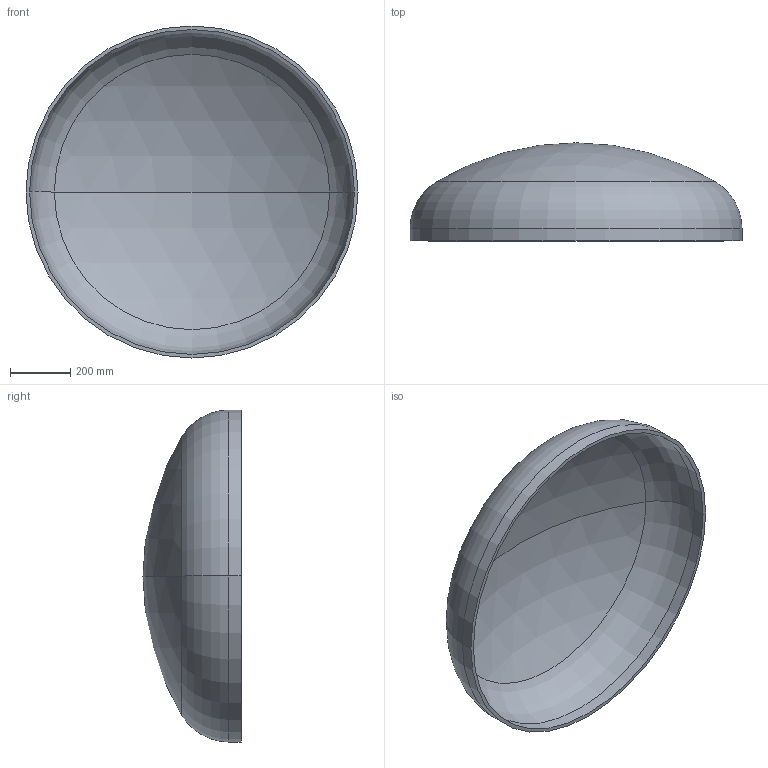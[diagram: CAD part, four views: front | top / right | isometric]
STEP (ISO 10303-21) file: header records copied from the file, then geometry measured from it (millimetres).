
FILE_DESCRIPTION (( 'STEP AP203' ), '1' );
FILE_NAME ('DIN 28013 Korbbogenform_-_Boden DIN 28013 - 1100 x 40 - I - s=12.step', '2016-07-01T09:01:20', ( '' ), ( '' ), 'SwSTEP 2.0', 'SolidWorks 2013', '' );
FILE_SCHEMA (( 'CONFIG_CONTROL_DESIGN' ));
Length unit declared in the file: millimetre
Products named in the file (1): DIN 28013 Korbbogenform_-_Boden DIN 28013 - 1100 x 40 - I - s=12
Bounding box: 1100 x 324.81 x 1100 mm (x, y, z)
Volume: 17219621.1 mm3; surface area: 2911254.1 mm2
Topology: 1 solids, 1 shells, 13 faces, 24 edges, 14 vertices
Faces by surface type: torus 4, cylinder 4, sphere 4, plane 1
Entity records: 407 total; most frequent: DIRECTION 72, CARTESIAN_POINT 52, ORIENTED_EDGE 48, AXIS2_PLACEMENT_3D 34, EDGE_CURVE 24, CIRCLE 20, VERTEX_POINT 14, EDGE_LOOP 14
